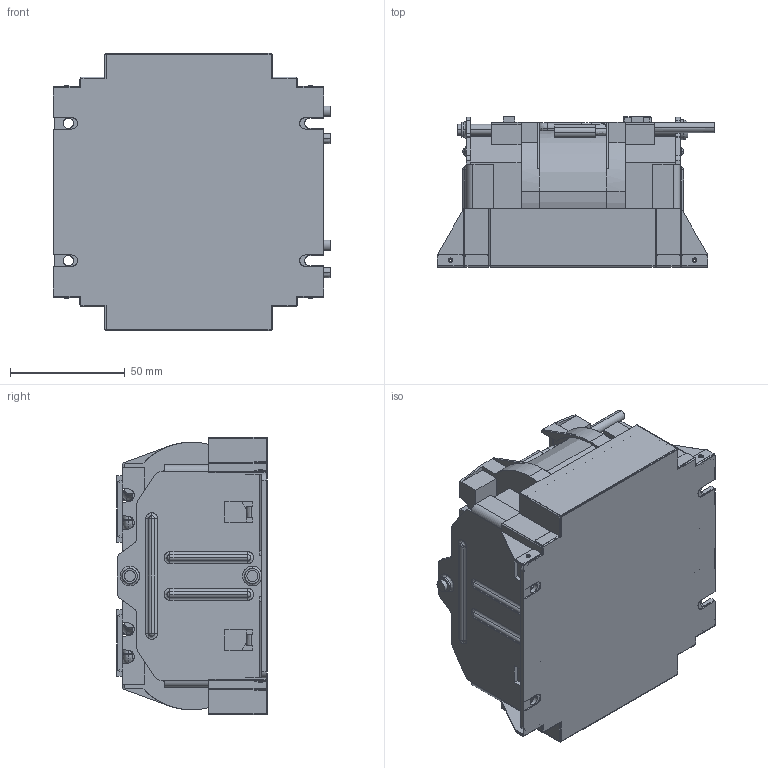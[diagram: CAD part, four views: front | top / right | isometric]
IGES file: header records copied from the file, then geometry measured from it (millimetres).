
Start section: SolidWorks IGES file using analytic representation for surfaces
Global section: file name: 34H\\10.106.230.1\R&D File\05_COMP\02_Mechanical\10_Others\PV_RT 81\网络用3D模型\半灌封模型\5KW_S_ACL\SF11231B-SM00DS20R(M-5KW_ACL-S).IGS; native system: SolidWorks 2009; preprocessor: SolidWorks 2009; author: Administrator; date: 120508.172719; units: millimetre
Bounding box: 121 x 65.75 x 121 mm (x, y, z)
Surface area: 184051.5 mm2 (no closed solid volume)
Topology: 0 solids, 0 shells, 1205 faces, 9573 edges, 9550 vertices
Faces by surface type: bspline 801, revolution 404
